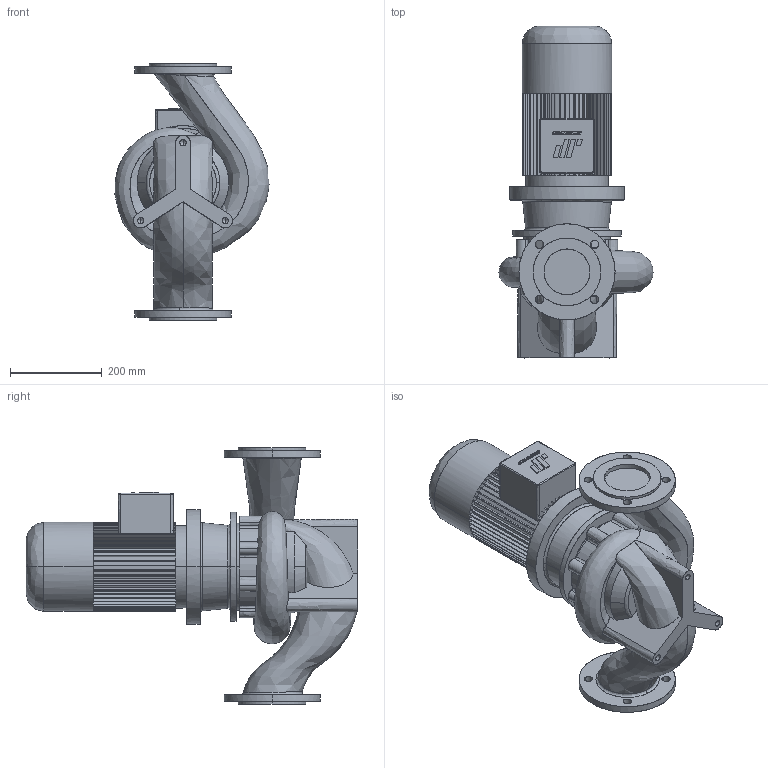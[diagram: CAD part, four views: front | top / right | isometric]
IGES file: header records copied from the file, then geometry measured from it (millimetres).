
Start section: CombiLine
Global section: file name: CLB_100-160_IEC100L.igs; native system:  By UGS Corp.; preprocessor: XPlus GENERIC/IGES 3.0; author: Stageplaats; organization: Johnson Pump Water B.V.; date: 20070716.084358; units: millimetre
Bounding box: 336.7 x 725 x 560 mm (x, y, z)
Surface area: 1181112.6 mm2 (no closed solid volume)
Topology: 0 solids, 0 shells, 670 faces, 3861 edges, 3855 vertices
Faces by surface type: bspline 670
